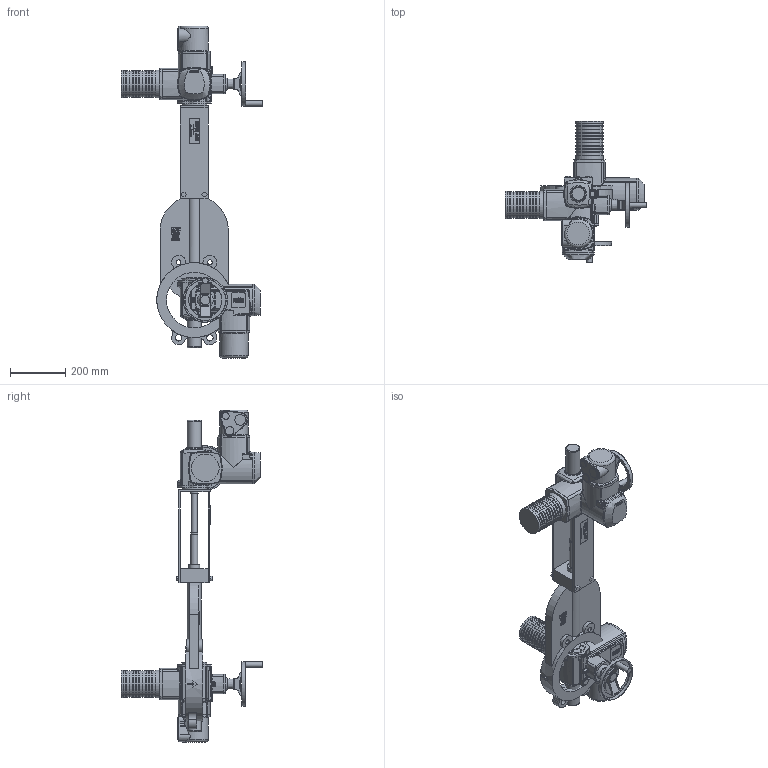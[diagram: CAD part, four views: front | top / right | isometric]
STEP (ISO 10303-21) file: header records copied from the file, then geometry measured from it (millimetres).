
FILE_DESCRIPTION( ( 'Unknown' ), '1' );
FILE_NAME( 'J:/Muud/ROOTSI BPS 3D vidinad/Nugasiibrid/Knife gate valve with electric actuator BPS/STEP formaat/BPS 2010200E knife gate valve DN200.stp', 'Unknown', ( 'Unknown' ), ( 'Unknown' ), 'PSStep 10.1', 'Unknown', ' ' );
FILE_SCHEMA( ( 'AUTOMOTIVE_DESIGN { 1 0 10303 214 1 1 1 1 }' ) );
Length unit declared in the file: millimetre
Products named in the file (3): Assem1; Knife gate valve for electric drive DN200 BPS; AUMA electric actuator sa07.1(sa07.5)
Bounding box: 511.9 x 511.9 x 1197 mm (x, y, z)
Volume: 25157533.6 mm3; surface area: 1889814.7 mm2
Topology: 4 solids, 4 shells, 2794 faces, 6704 edges, 4190 vertices
Faces by surface type: extrusion 1048, plane 586, cylinder 536, bspline 330, cone 154, torus 94, sphere 46
Full cylindrical faces by diameter (mm): 4.917 x8, 6.647 x8, 17.294 x4, 20 x6, 23 x4, 24 x4, 25 x4, 25.5 x2, 30 x8, 34 x2, 38.3 x2, 40 x2, 51.5 x2, 55 x2, 90 x2, 95 x20, 100 x22, 120 x2, 160 x2, 200 x4, 270 x2
Entity records: 71872 total; most frequent: CARTESIAN_POINT 31236, ORIENTED_EDGE 6372, DIRECTION 4732, EDGE_CURVE 3186, VERTEX_POINT 2068, VECTOR 1906, EDGE_LOOP 1678, B_SPLINE_CURVE_WITH_KNOTS 1626
